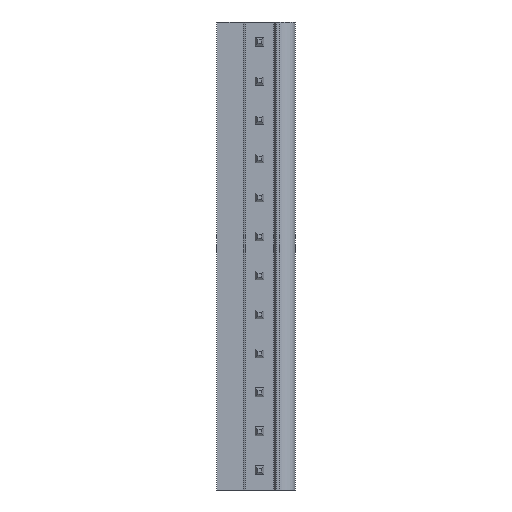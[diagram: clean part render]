
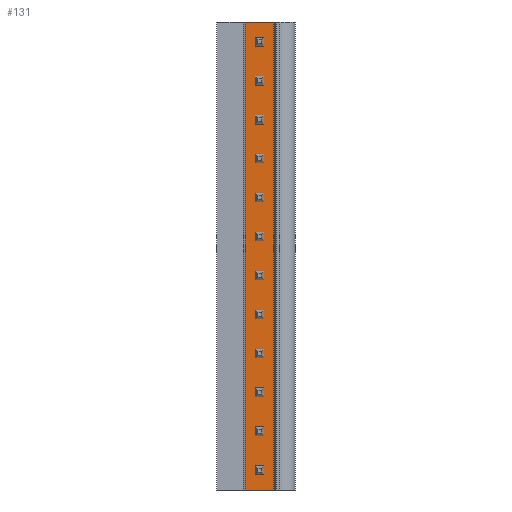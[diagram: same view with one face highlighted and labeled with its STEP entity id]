
A CAD part, front view. The second image highlights one B-rep face of the part: STEP entity #131.
In plain terms, the highlighted planar face has unit normal (0, -1, 0).
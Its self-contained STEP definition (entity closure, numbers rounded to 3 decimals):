
#131 = ADVANCED_FACE ( 'NONE', ( #938 ), #710, .F. ) ;
#220 = EDGE_LOOP ( 'NONE', ( #983, #371, #244, #317 ) ) ;
#244 = ORIENTED_EDGE ( 'NONE', *, *, #539, .T. ) ;
#298 = VERTEX_POINT ( 'NONE', #1398 ) ;
#317 = ORIENTED_EDGE ( 'NONE', *, *, #468, .T. ) ;
#367 = VERTEX_POINT ( 'NONE', #1372 ) ;
#371 = ORIENTED_EDGE ( 'NONE', *, *, #490, .F. ) ;
#398 = VERTEX_POINT ( 'NONE', #1357 ) ;
#406 = VERTEX_POINT ( 'NONE', #1041 ) ;
#468 = EDGE_CURVE ( 'NONE', #398, #298, #886, .T. ) ;
#490 = EDGE_CURVE ( 'NONE', #367, #406, #878, .T. ) ;
#517 = EDGE_CURVE ( 'NONE', #406, #298, #855, .T. ) ;
#539 = EDGE_CURVE ( 'NONE', #367, #398, #784, .T. ) ;
#564 = AXIS2_PLACEMENT_3D ( 'NONE', #680, #681, #731 ) ;
#680 = CARTESIAN_POINT ( 'NONE',  ( 7.43, 0.76, -10.22 ) ) ;
#681 = DIRECTION ( 'NONE',  ( 0., 1., 0. ) ) ;
#710 = PLANE ( 'NONE',  #564 ) ;
#731 = DIRECTION ( 'NONE',  ( -1., 0., 0. ) ) ;
#784 = LINE ( 'NONE', #1235, #843 ) ;
#787 = VECTOR ( 'NONE', #1254, 1000. ) ;
#843 = VECTOR ( 'NONE', #1325, 1000. ) ;
#855 = LINE ( 'NONE', #1028, #787 ) ;
#878 = LINE ( 'NONE', #1304, #880 ) ;
#880 = VECTOR ( 'NONE', #1088, 1000. ) ;
#886 = LINE ( 'NONE', #1426, #903 ) ;
#903 = VECTOR ( 'NONE', #1401, 1000. ) ;
#938 = FACE_OUTER_BOUND ( 'NONE', #220, .T. ) ;
#983 = ORIENTED_EDGE ( 'NONE', *, *, #517, .F. ) ;
#1028 = CARTESIAN_POINT ( 'NONE',  ( 7.43, 0.76, -5.11 ) ) ;
#1041 = CARTESIAN_POINT ( 'NONE',  ( 7.43, 0.76, 50.8 ) ) ;
#1088 = DIRECTION ( 'NONE',  ( 1., 0., 0. ) ) ;
#1235 = CARTESIAN_POINT ( 'NONE',  ( 3.71, 0.76, -5.11 ) ) ;
#1254 = DIRECTION ( 'NONE',  ( 0., 0., -1. ) ) ;
#1304 = CARTESIAN_POINT ( 'NONE',  ( 5.1, 0.76, 50.8 ) ) ;
#1325 = DIRECTION ( 'NONE',  ( 0., 0., -1. ) ) ;
#1357 = CARTESIAN_POINT ( 'NONE',  ( 3.71, 0.76, -10.22 ) ) ;
#1372 = CARTESIAN_POINT ( 'NONE',  ( 3.71, 0.76, 50.8 ) ) ;
#1398 = CARTESIAN_POINT ( 'NONE',  ( 7.43, 0.76, -10.22 ) ) ;
#1401 = DIRECTION ( 'NONE',  ( 1., 0., 0. ) ) ;
#1426 = CARTESIAN_POINT ( 'NONE',  ( 5.1, 0.76, -10.22 ) ) ;
